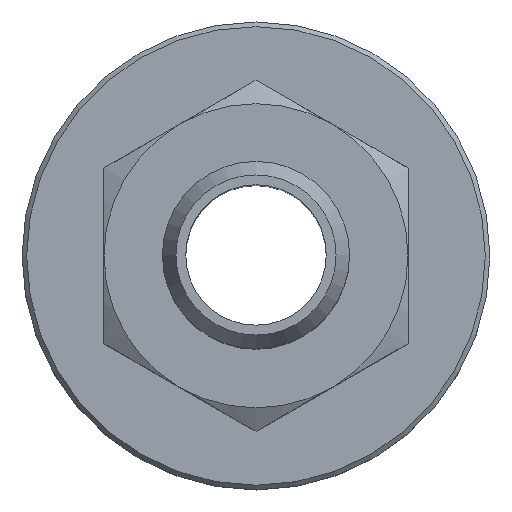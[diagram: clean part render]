
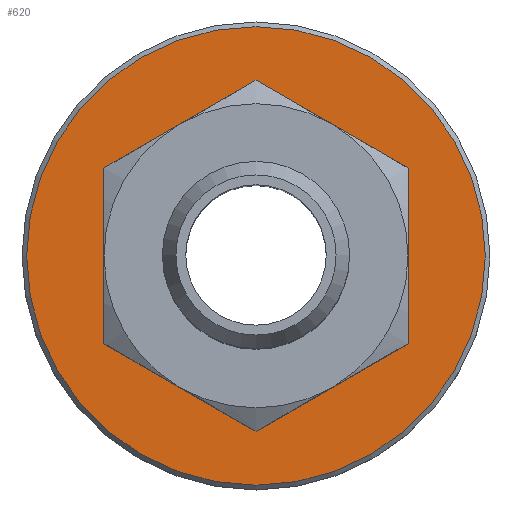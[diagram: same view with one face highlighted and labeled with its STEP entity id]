
A CAD part, top view. The second image highlights one B-rep face of the part: STEP entity #620.
In plain terms, the highlighted planar face has unit normal (0, 0, 1).
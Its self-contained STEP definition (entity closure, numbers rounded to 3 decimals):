
#620=ADVANCED_FACE('', (#630,#640), #650, .T.);
#2880=AXIS2_PLACEMENT_3D('Ax2Pl3d', #2890, #2900, #2910);
#2920=AXIS2_PLACEMENT_3D('Ax2Pl3d', #2930, #2940, #2950);
#6170=CARTESIAN_POINT('', (113.283,7.506,45.062));
#6180=CARTESIAN_POINT('', (119.783,3.753,45.062));
#6190=CARTESIAN_POINT('', (113.283,7.506,45.062));
#6270=CARTESIAN_POINT('', (119.783,3.753,45.062));
#6280=CARTESIAN_POINT('', (119.783,-3.753,45.062));
#6320=CARTESIAN_POINT('', (119.783,-3.753,45.062));
#6330=CARTESIAN_POINT('', (113.283,-7.506,45.062));
#6370=CARTESIAN_POINT('', (113.283,-7.506,45.062));
#6380=CARTESIAN_POINT('', (106.783,-3.753,45.062));
#6420=CARTESIAN_POINT('', (106.783,-3.753,45.062));
#6430=CARTESIAN_POINT('', (106.783,3.753,45.062));
#6460=CARTESIAN_POINT('', (106.783,3.753,45.062));
#2890=CARTESIAN_POINT('HicPkt', (123.283,0.,45.062));
#2930=CARTESIAN_POINT('HicPkt', (113.283,0.,45.062));
#6470=CARTESIAN_POINT('', (113.283,9.8,45.062));
#6850=CIRCLE('Circle', #2920, 9.8);
#9090=DIRECTION('', (-0.866,0.5,0.));
#9120=DIRECTION('', (0.,1.,0.));
#9140=DIRECTION('', (0.866,0.5,0.));
#9160=DIRECTION('', (0.866,-0.5,0.));
#9180=DIRECTION('', (0.,-1.,0.));
#9200=DIRECTION('', (-0.866,-0.5,0.));
#2900=DIRECTION('Axis', (0.,0.,1.));
#2910=DIRECTION('RefDirection', (1.,0.,-0.));
#2940=DIRECTION('Axis', (0.,0.,1.));
#2950=DIRECTION('RefDirection', (1.,0.,-0.));
#9290=EDGE_CURVE('', #9300, #9310, #9320, .T.);
#9480=EDGE_CURVE('', #9490, #9300, #9500, .T.);
#9580=EDGE_CURVE('', #9590, #9490, #9600, .T.);
#9680=EDGE_CURVE('', #9690, #9590, #9700, .T.);
#9780=EDGE_CURVE('', #9790, #9690, #9800, .T.);
#9870=EDGE_CURVE('', #9310, #9790, #9880, .T.);
#9890=EDGE_CURVE('', #9900, #9900, #6850, .T.);
#11210=EDGE_LOOP('Edge_loop', (#11220));
#11230=EDGE_LOOP('Edge_loop', (#11240,#11250,#11260,#11270,#11280,
#11290));
#640=FACE_BOUND('', #11230, .T.);
#630=FACE_OUTER_BOUND('Face_outer_bound', #11210, .T.);
#9320=LINE('Line', #6170, #12970);
#9500=LINE('Line', #6270, #13000);
#9600=LINE('Line', #6320, #13020);
#9700=LINE('Line', #6370, #13040);
#9800=LINE('Line', #6420, #13060);
#9880=LINE('Line', #6460, #13080);
#11220=ORIENTED_EDGE('', *, *, #9890, .T.);
#11240=ORIENTED_EDGE('', *, *, #9290, .F.);
#11250=ORIENTED_EDGE('', *, *, #9480, .F.);
#11260=ORIENTED_EDGE('', *, *, #9580, .F.);
#11270=ORIENTED_EDGE('', *, *, #9680, .F.);
#11280=ORIENTED_EDGE('', *, *, #9780, .F.);
#11290=ORIENTED_EDGE('', *, *, #9870, .F.);
#650=PLANE('Plane', #2880);
#12970=VECTOR('', #9090, 7.506);
#13000=VECTOR('', #9120, 7.506);
#13020=VECTOR('', #9140, 7.506);
#13040=VECTOR('', #9160, 7.506);
#13060=VECTOR('', #9180, 7.506);
#13080=VECTOR('', #9200, 7.506);
#9300=VERTEX_POINT('', #6180);
#9310=VERTEX_POINT('', #6190);
#9490=VERTEX_POINT('', #6280);
#9590=VERTEX_POINT('', #6330);
#9690=VERTEX_POINT('', #6380);
#9790=VERTEX_POINT('', #6430);
#9900=VERTEX_POINT('', #6470);
